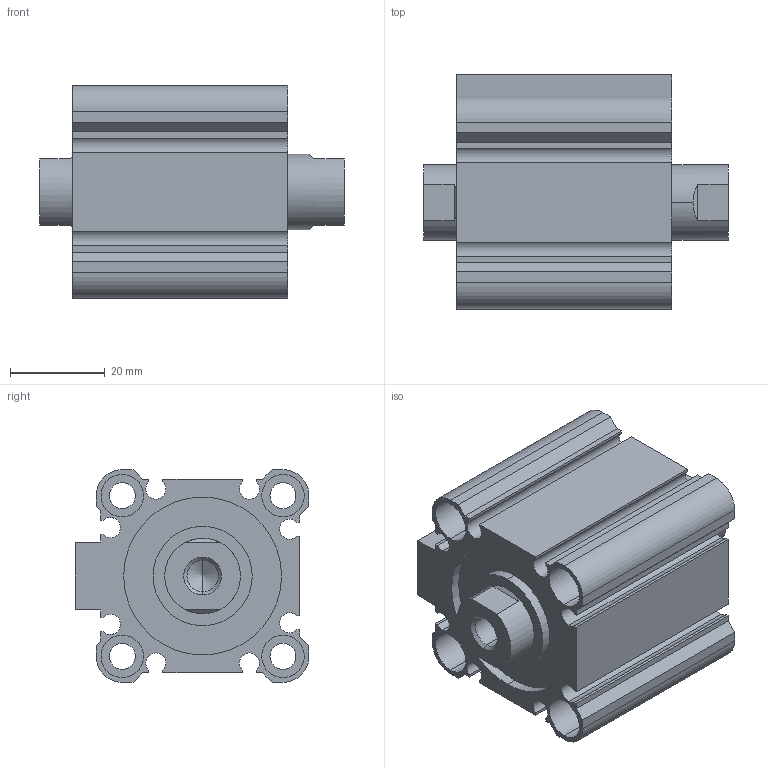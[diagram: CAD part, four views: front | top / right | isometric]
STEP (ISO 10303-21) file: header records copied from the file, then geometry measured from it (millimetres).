
FILE_DESCRIPTION (( 'STEP AP203' ), '1' );
FILE_NAME ('CCMB32-5F-P.STEP', '2020-08-05T11:12:16', ( '' ), ( '' ), 'SwSTEP 2.0', 'SolidWorks 2019', '' );
FILE_SCHEMA (( 'CONFIG_CONTROL_DESIGN' ));
Length unit declared in the file: millimetre
Products named in the file (1): CCMB32-5F-P
Bounding box: 64.5 x 49.5 x 45 mm (x, y, z)
Volume: 70613.4 mm3; surface area: 30400.9 mm2
Topology: 2 solids, 2 shells, 164 faces, 414 edges, 270 vertices
Faces by surface type: plane 78, cylinder 74, cone 12
Entity records: 5025 total; most frequent: DIRECTION 888, CARTESIAN_POINT 869, ORIENTED_EDGE 820, EDGE_CURVE 410, AXIS2_PLACEMENT_3D 321, VERTEX_POINT 270, LINE 246, VECTOR 246
